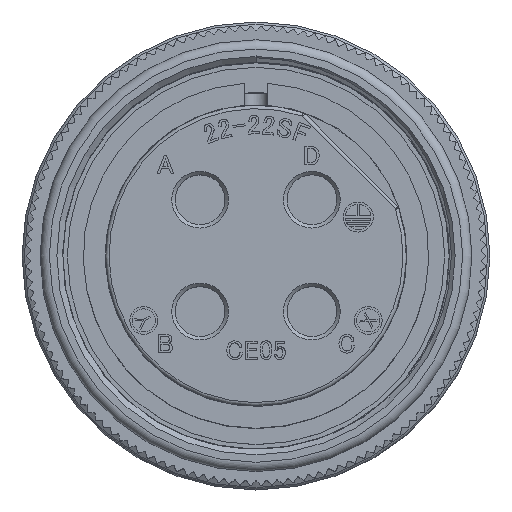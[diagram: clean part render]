
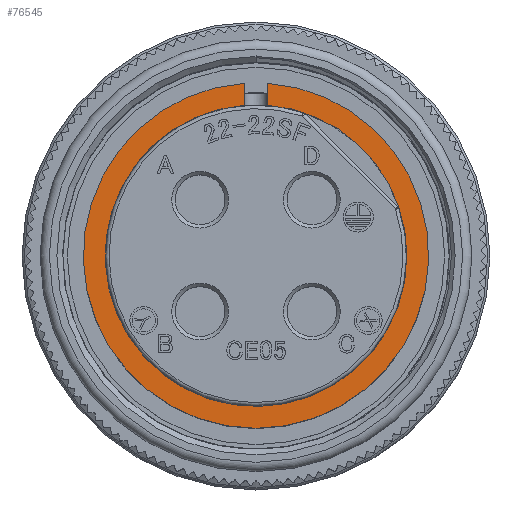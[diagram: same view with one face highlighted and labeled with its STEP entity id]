
A CAD part, top view. The second image highlights one B-rep face of the part: STEP entity #76545.
In plain terms, the highlighted planar face has unit normal (0, 0, 1).
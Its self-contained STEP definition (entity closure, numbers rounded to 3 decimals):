
#2676 = LINE ( 'NONE', #7792, #90717 ) ;
#6790 = ORIENTED_EDGE ( 'NONE', *, *, #42819, .F. ) ;
#7792 = CARTESIAN_POINT ( 'NONE',  ( 1., 14.886, 0. ) ) ;
#19574 = AXIS2_PLACEMENT_3D ( 'NONE', #21797, #44743, #59197 ) ;
#21601 = DIRECTION ( 'NONE',  ( 1., 0., 0. ) ) ;
#21797 = CARTESIAN_POINT ( 'NONE',  ( 0., 14.92, 0. ) ) ;
#22511 = LINE ( 'NONE', #69985, #63684 ) ;
#26867 = ORIENTED_EDGE ( 'NONE', *, *, #40857, .T. ) ;
#26895 = CARTESIAN_POINT ( 'NONE',  ( 1., 14.886, 0. ) ) ;
#29462 = PLANE ( 'NONE',  #19574 ) ;
#39788 = CIRCLE ( 'NONE', #75714, 14.92 ) ;
#40857 = EDGE_CURVE ( 'NONE', #79398, #46469, #39788, .T. ) ;
#40865 = DIRECTION ( 'NONE',  ( 0., -1., 0. ) ) ;
#42819 = EDGE_CURVE ( 'NONE', #79398, #80083, #22511, .T. ) ;
#43201 = DIRECTION ( 'NONE',  ( 0., 0., 1. ) ) ;
#43260 = CARTESIAN_POINT ( 'NONE',  ( 0., 0., 0. ) ) ;
#44743 = DIRECTION ( 'NONE',  ( 0., 0., -1. ) ) ;
#46469 = VERTEX_POINT ( 'NONE', #26895 ) ;
#49580 = AXIS2_PLACEMENT_3D ( 'NONE', #43260, #58041, #21601 ) ;
#54747 = FACE_OUTER_BOUND ( 'NONE', #59535, .T. ) ;
#55824 = ORIENTED_EDGE ( 'NONE', *, *, #91934, .F. ) ;
#58041 = DIRECTION ( 'NONE',  ( 0., 0., 1. ) ) ;
#59197 = DIRECTION ( 'NONE',  ( 0., -1., 0. ) ) ;
#59535 = EDGE_LOOP ( 'NONE', ( #6790, #26867, #55824, #73090 ) ) ;
#59695 = VERTEX_POINT ( 'NONE', #89657 ) ;
#60134 = CARTESIAN_POINT ( 'NONE',  ( -1., 14.886, 0. ) ) ;
#63684 = VECTOR ( 'NONE', #40865, 1000. ) ;
#65354 = DIRECTION ( 'NONE',  ( 1., 0., 0. ) ) ;
#66284 = CARTESIAN_POINT ( 'NONE',  ( 0., 0., 0. ) ) ;
#69985 = CARTESIAN_POINT ( 'NONE',  ( -1., 14.886, 0. ) ) ;
#73038 = EDGE_CURVE ( 'NONE', #80083, #59695, #88184, .T. ) ;
#73090 = ORIENTED_EDGE ( 'NONE', *, *, #73038, .F. ) ;
#74292 = DIRECTION ( 'NONE',  ( 0., 1., 0. ) ) ;
#75714 = AXIS2_PLACEMENT_3D ( 'NONE', #66284, #43201, #65354 ) ;
#76545 = ADVANCED_FACE ( 'NONE', ( #54747 ), #29462, .F. ) ;
#78219 = CARTESIAN_POINT ( 'NONE',  ( -1., 12.997, 0. ) ) ;
#79398 = VERTEX_POINT ( 'NONE', #60134 ) ;
#80083 = VERTEX_POINT ( 'NONE', #78219 ) ;
#88184 = CIRCLE ( 'NONE', #49580, 13.035 ) ;
#89657 = CARTESIAN_POINT ( 'NONE',  ( 1., 12.997, 0. ) ) ;
#90717 = VECTOR ( 'NONE', #74292, 1000. ) ;
#91934 = EDGE_CURVE ( 'NONE', #59695, #46469, #2676, .T. ) ;
